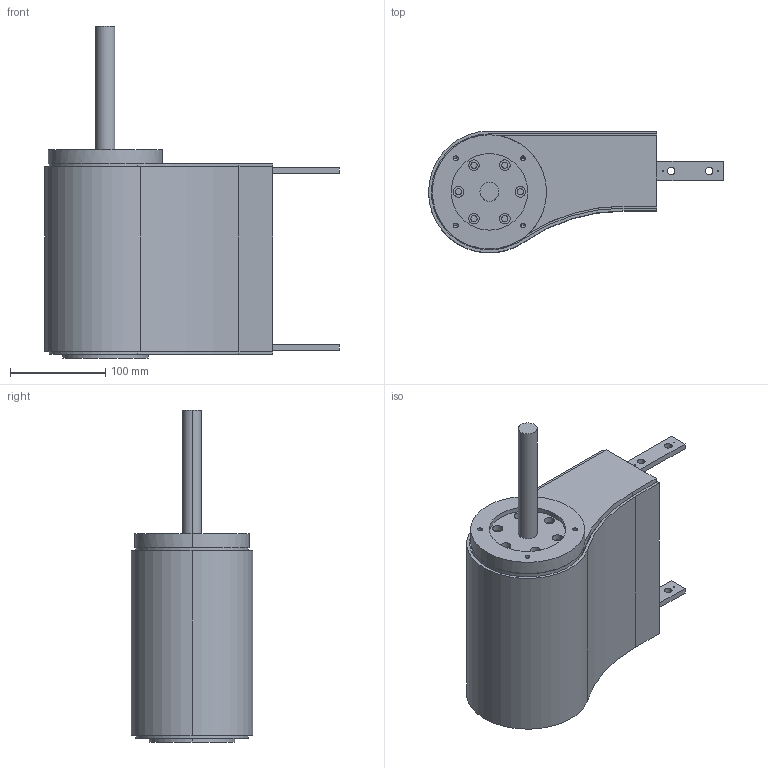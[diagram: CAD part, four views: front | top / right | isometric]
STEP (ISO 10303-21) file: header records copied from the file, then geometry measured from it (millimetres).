
FILE_DESCRIPTION (( 'STEP AP214' ), '1' );
FILE_NAME ('CS SL Aandr. - Omloop.200 Aandr. Links.STEP', '2017-02-08T07:32:49', ( '' ), ( '' ), 'SwSTEP 2.0', 'SolidWorks 2016', '' );
FILE_SCHEMA (( 'AUTOMOTIVE_DESIGN' ));
Length unit declared in the file: millimetre
Products named in the file (1): CS SL Aandr. - Omloop.200 Aandr. Links
Bounding box: 310 x 127.87 x 349 mm (x, y, z)
Volume: 4953236.7 mm3; surface area: 210821.3 mm2
Topology: 1 solids, 1 shells, 119 faces, 290 edges, 186 vertices
Faces by surface type: cylinder 67, plane 44, cone 8
Entity records: 3639 total; most frequent: DIRECTION 659, CARTESIAN_POINT 588, ORIENTED_EDGE 564, EDGE_CURVE 282, AXIS2_PLACEMENT_3D 257, VERTEX_POINT 186, EDGE_LOOP 156, LINE 145
